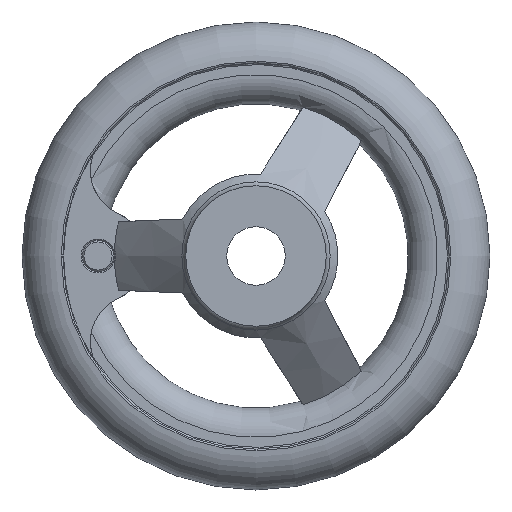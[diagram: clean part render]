
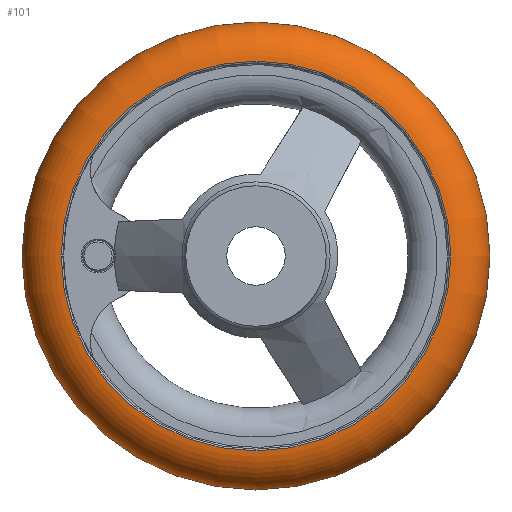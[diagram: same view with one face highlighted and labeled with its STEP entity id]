
A CAD part, left-side view. The second image highlights one B-rep face of the part: STEP entity #101.
In plain terms, the highlighted toroidal (fillet/blend) face has major radius 32.994 mm and minor radius 7.006 mm.
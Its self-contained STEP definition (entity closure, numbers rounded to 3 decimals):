
#101 = ADVANCED_FACE( '', ( #191, #192, #193 ), #194, .T. );
#191 = FACE_BOUND( '', #343, .T. );
#192 = FACE_OUTER_BOUND( '', #344, .T. );
#193 = FACE_OUTER_BOUND( '', #345, .T. );
#194 = TOROIDAL_SURFACE( '', #346, 32.994, 7.006 );
#343 = VERTEX_LOOP( '', #585 );
#344 = EDGE_LOOP( '', ( #586 ) );
#345 = EDGE_LOOP( '', ( #587 ) );
#346 = AXIS2_PLACEMENT_3D( '', #588, #589, #590 );
#585 = VERTEX_POINT( '', #800 );
#586 = ORIENTED_EDGE( '', *, *, #799, .T. );
#587 = ORIENTED_EDGE( '', *, *, #794, .F. );
#588 = CARTESIAN_POINT( '', ( 22., 0., 0. ) );
#589 = DIRECTION( '', ( 1., 0., 0. ) );
#590 = DIRECTION( '', ( 0., 1., 0. ) );
#794 = EDGE_CURVE( '', #949, #949, #950, .T. );
#799 = EDGE_CURVE( '', #958, #958, #959, .T. );
#800 = CARTESIAN_POINT( '', ( 22., 40., 0. ) );
#949 = VERTEX_POINT( '', #1398 );
#950 = CIRCLE( '', #1399, 33.292 );
#958 = VERTEX_POINT( '', #1407 );
#959 = CIRCLE( '', #1408, 33.292 );
#1398 = CARTESIAN_POINT( '', ( 29., 33.292, 0. ) );
#1399 = AXIS2_PLACEMENT_3D( '', #1594, #1595, #1596 );
#1407 = CARTESIAN_POINT( '', ( 15., 33.292, 0. ) );
#1408 = AXIS2_PLACEMENT_3D( '', #1609, #1610, #1611 );
#1594 = CARTESIAN_POINT( '', ( 29., 0., 0. ) );
#1595 = DIRECTION( '', ( 1., 0., 0. ) );
#1596 = DIRECTION( '', ( 0., 1., 0. ) );
#1609 = CARTESIAN_POINT( '', ( 15., 0., 0. ) );
#1610 = DIRECTION( '', ( 1., 0., 0. ) );
#1611 = DIRECTION( '', ( 0., 1., 0. ) );
